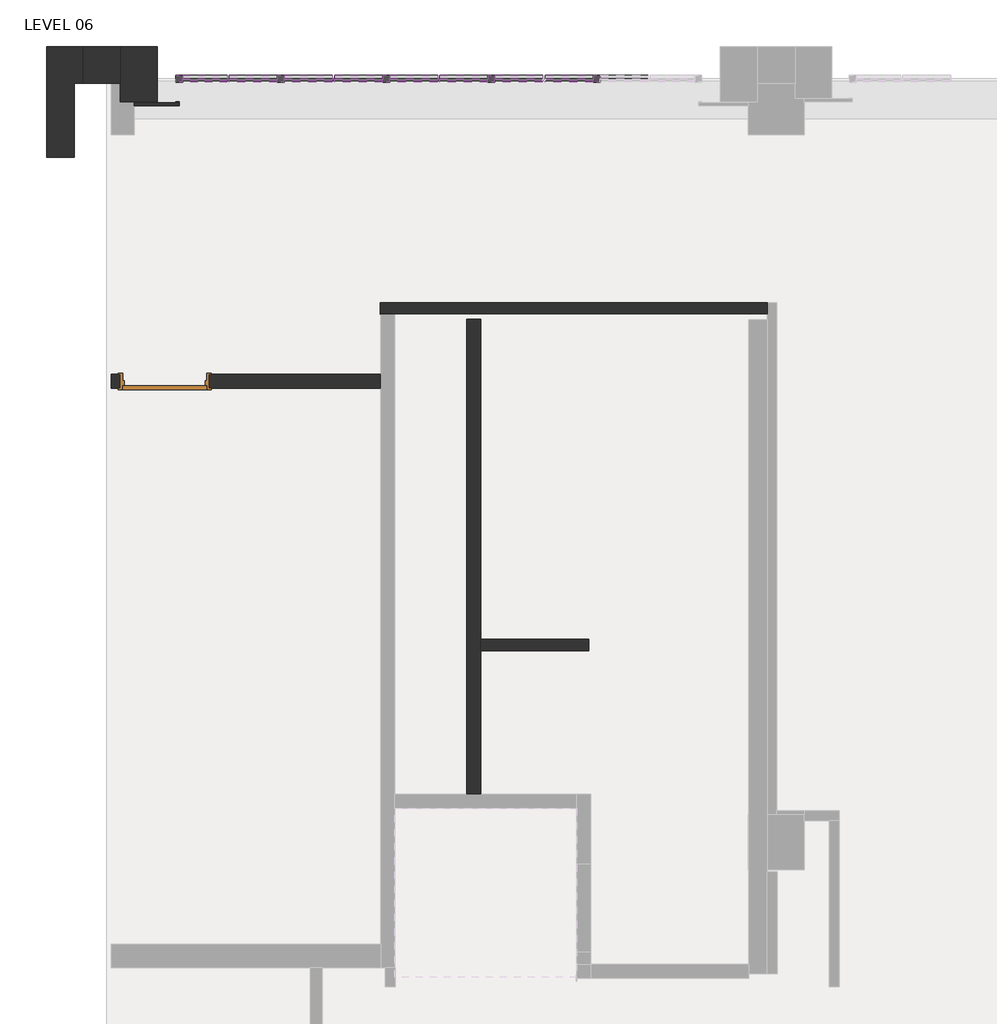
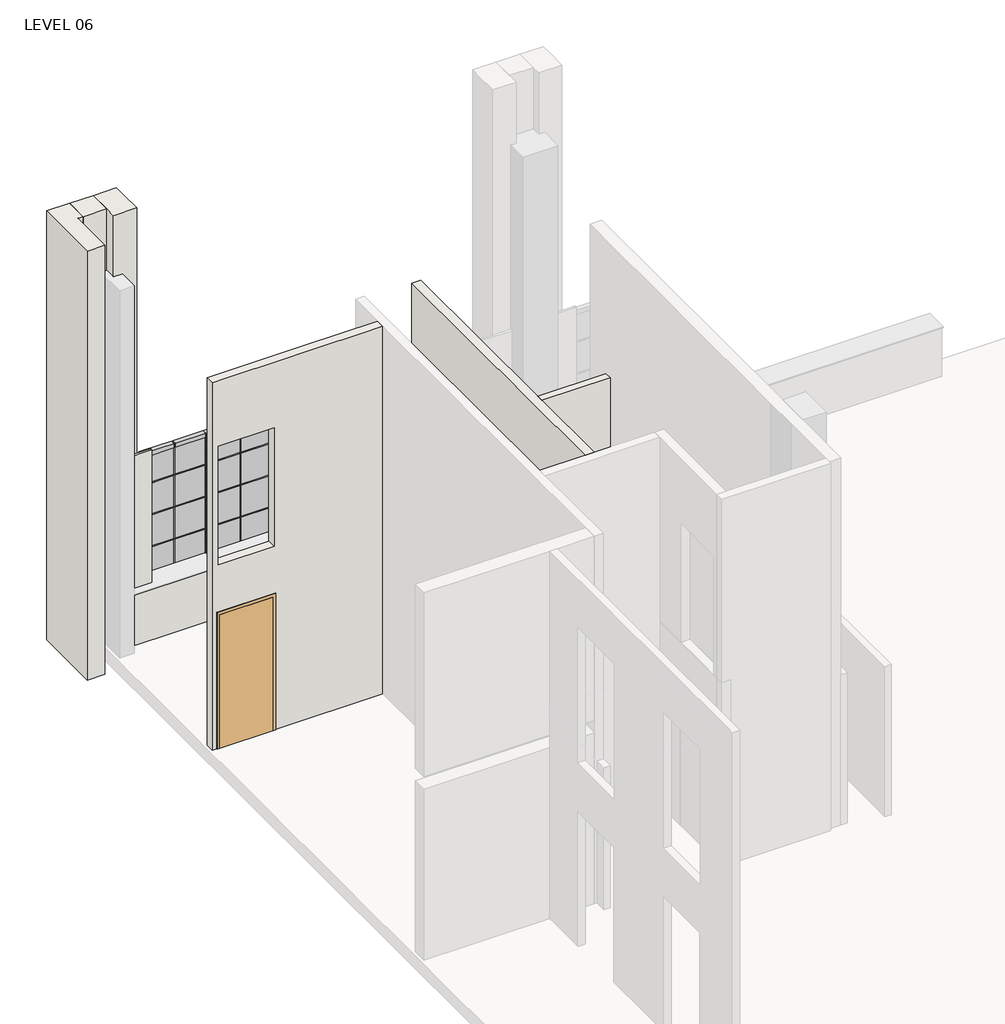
# One storey, part 2 of 16: 73 members, 32 plates, 11 walls, 1 door.
"""IFC4 building model written with IfcOpenShell, lengths in millimetres."""

from ifc_helpers import new_model, si_unit, frame, origin, place, context, project, spatial, polyline, outline, extrude, faceted_brep, transform, mapped, element, save
from components import door_048e38b4, member_d9fe2114, member_fd592df6, member_78bb2ef1, member_ba51e770, member_6e5aab5d, member_bacafba3, member_a6d649dc, system_panel_glazed_84a10c8e, system_panel_glazed_44697018, system_panel_glazed_99b9b709, system_panel_glazed_bf1454fd

model = new_model("IFC4")

# Units and contexts
model_context = context("Model", 3, world=origin())
ifc_project = project(units=[si_unit("LENGTHUNIT", "METRE", prefix="MILLI")], contexts=[model_context])

# Site, building, storey
site = spatial("IfcSite", under=ifc_project)
building = spatial("IfcBuilding", under=site)
storey = spatial("IfcBuildingStorey", under=building, Name="LEVEL 06", Elevation=17449.8)

# Door
placement = place(None, origin())
door_shape = door_048e38b4(model_context)
element("IfcDoor", 1, ObjectType="Single - Plain Panel - Hollow Metal Frame : 3'-0\" x 8'-0\" - Interior", at=placement, inside=storey, context=model_context, shape_type="MappedRepresentation", body=[
    mapped(door_shape, transform((-36807.3832298, -3705.225, 17449.8), x_axis=(1.0, 0.0, 0.0), y_axis=(0.0, 1.0, 0.0), z_axis=(0.0, 0.0, 1.0))),
])

# Members
member_shape = member_d9fe2114(model_context)
element("IfcMember", 2, ObjectType="Rectangular Mullion : 1\" x 1\" - Butt Joint", at=placement, inside=storey, context=model_context, shape_type="MappedRepresentation", body=[
    mapped(member_shape, transform((-35576.1910374, -412.75, 19989.8), x_axis=(0.0, 0.0, 1.0), y_axis=(0.0, -1.0, 0.0), z_axis=(1.0, 0.0, 0.0))),
])
element("IfcMember", 3, ObjectType="Rectangular Mullion : 1\" x 1\" - Butt Joint", at=placement, inside=storey, context=model_context, shape_type="MappedRepresentation", body=[
    mapped(member_shape, transform((-34428.1110374, -412.75, 19989.8), x_axis=(0.0, 0.0, 1.0), y_axis=(0.0, -1.0, 0.0), z_axis=(1.0, 0.0, 0.0))),
])
element("IfcMember", 4, ObjectType="Rectangular Mullion : 1\" x 1\" - Butt Joint", at=placement, inside=storey, context=model_context, shape_type="MappedRepresentation", body=[
    mapped(member_shape, transform((-33280.0310374, -412.75, 19989.8), x_axis=(0.0, 0.0, 1.0), y_axis=(0.0, -1.0, 0.0), z_axis=(1.0, 0.0, 0.0))),
])
element("IfcMember", 5, ObjectType="Rectangular Mullion : 1\" x 1\" - Butt Joint", at=placement, inside=storey, context=model_context, shape_type="MappedRepresentation", body=[
    mapped(member_shape, transform((-32131.9510374, -412.75, 19989.8), x_axis=(0.0, 0.0, 1.0), y_axis=(0.0, -1.0, 0.0), z_axis=(1.0, 0.0, 0.0))),
])
element("IfcMember", 6, ObjectType="Rectangular Mullion : 1\" x 1\" - Butt Joint", at=placement, inside=storey, context=model_context, shape_type="MappedRepresentation", body=[
    mapped(member_shape, transform((-34976.7510374, -412.75, 19989.8), x_axis=(0.0, 0.0, 1.0), y_axis=(0.0, -1.0, 0.0), z_axis=(1.0, 0.0, 0.0))),
])
element("IfcMember", 7, ObjectType="Rectangular Mullion : 1\" x 1\" - Butt Joint", at=placement, inside=storey, context=model_context, shape_type="MappedRepresentation", body=[
    mapped(member_shape, transform((-33828.6710374, -412.75, 19989.8), x_axis=(0.0, 0.0, 1.0), y_axis=(0.0, -1.0, 0.0), z_axis=(1.0, 0.0, 0.0))),
])
element("IfcMember", 8, ObjectType="Rectangular Mullion : 1\" x 1\" - Butt Joint", at=placement, inside=storey, context=model_context, shape_type="MappedRepresentation", body=[
    mapped(member_shape, transform((-32680.5910374, -412.75, 19989.8), x_axis=(0.0, 0.0, 1.0), y_axis=(0.0, -1.0, 0.0), z_axis=(1.0, 0.0, 0.0))),
])
element("IfcMember", 9, ObjectType="Rectangular Mullion : 1\" x 1\" - Butt Joint", at=placement, inside=storey, context=model_context, shape_type="MappedRepresentation", body=[
    mapped(member_shape, transform((-35576.1910374, -412.75, 19405.6), x_axis=(0.0, 0.0, 1.0), y_axis=(0.0, -1.0, 0.0), z_axis=(1.0, 0.0, 0.0))),
])
element("IfcMember", 10, ObjectType="Rectangular Mullion : 1\" x 1\" - Butt Joint", at=placement, inside=storey, context=model_context, shape_type="MappedRepresentation", body=[
    mapped(member_shape, transform((-34428.1110374, -412.75, 19405.6), x_axis=(0.0, 0.0, 1.0), y_axis=(0.0, -1.0, 0.0), z_axis=(1.0, 0.0, 0.0))),
])
element("IfcMember", 11, ObjectType="Rectangular Mullion : 1\" x 1\" - Butt Joint", at=placement, inside=storey, context=model_context, shape_type="MappedRepresentation", body=[
    mapped(member_shape, transform((-33280.0310374, -412.75, 19405.6), x_axis=(0.0, 0.0, 1.0), y_axis=(0.0, -1.0, 0.0), z_axis=(1.0, 0.0, 0.0))),
])
element("IfcMember", 12, ObjectType="Rectangular Mullion : 1\" x 1\" - Butt Joint", at=placement, inside=storey, context=model_context, shape_type="MappedRepresentation", body=[
    mapped(member_shape, transform((-32131.9510374, -412.75, 19405.6), x_axis=(0.0, 0.0, 1.0), y_axis=(0.0, -1.0, 0.0), z_axis=(1.0, 0.0, 0.0))),
])
element("IfcMember", 13, ObjectType="Rectangular Mullion : 1\" x 1\" - Butt Joint", at=placement, inside=storey, context=model_context, shape_type="MappedRepresentation", body=[
    mapped(member_shape, transform((-34976.7510374, -412.75, 19405.6), x_axis=(0.0, 0.0, 1.0), y_axis=(0.0, -1.0, 0.0), z_axis=(1.0, 0.0, 0.0))),
])
element("IfcMember", 14, ObjectType="Rectangular Mullion : 1\" x 1\" - Butt Joint", at=placement, inside=storey, context=model_context, shape_type="MappedRepresentation", body=[
    mapped(member_shape, transform((-33828.6710374, -412.75, 19405.6), x_axis=(0.0, 0.0, 1.0), y_axis=(0.0, -1.0, 0.0), z_axis=(1.0, 0.0, 0.0))),
])
element("IfcMember", 15, ObjectType="Rectangular Mullion : 1\" x 1\" - Butt Joint", at=placement, inside=storey, context=model_context, shape_type="MappedRepresentation", body=[
    mapped(member_shape, transform((-32680.5910374, -412.75, 19405.6), x_axis=(0.0, 0.0, 1.0), y_axis=(0.0, -1.0, 0.0), z_axis=(1.0, 0.0, 0.0))),
])
element("IfcMember", 16, ObjectType="Rectangular Mullion : 1\" x 1\" - Butt Joint", at=placement, inside=storey, context=model_context, shape_type="MappedRepresentation", body=[
    mapped(member_shape, transform((-35576.1910374, -412.75, 18821.4), x_axis=(0.0, 0.0, 1.0), y_axis=(0.0, -1.0, 0.0), z_axis=(1.0, 0.0, 0.0))),
])
element("IfcMember", 17, ObjectType="Rectangular Mullion : 1\" x 1\" - Butt Joint", at=placement, inside=storey, context=model_context, shape_type="MappedRepresentation", body=[
    mapped(member_shape, transform((-34428.1110374, -412.75, 18821.4), x_axis=(0.0, 0.0, 1.0), y_axis=(0.0, -1.0, 0.0), z_axis=(1.0, 0.0, 0.0))),
])
element("IfcMember", 18, ObjectType="Rectangular Mullion : 1\" x 1\" - Butt Joint", at=placement, inside=storey, context=model_context, shape_type="MappedRepresentation", body=[
    mapped(member_shape, transform((-33280.0310374, -412.75, 18821.4), x_axis=(0.0, 0.0, 1.0), y_axis=(0.0, -1.0, 0.0), z_axis=(1.0, 0.0, 0.0))),
])
element("IfcMember", 19, ObjectType="Rectangular Mullion : 1\" x 1\" - Butt Joint", at=placement, inside=storey, context=model_context, shape_type="MappedRepresentation", body=[
    mapped(member_shape, transform((-32131.9510374, -412.75, 18821.4), x_axis=(0.0, 0.0, 1.0), y_axis=(0.0, -1.0, 0.0), z_axis=(1.0, 0.0, 0.0))),
])
element("IfcMember", 20, ObjectType="Rectangular Mullion : 1\" x 1\" - Butt Joint", at=placement, inside=storey, context=model_context, shape_type="MappedRepresentation", body=[
    mapped(member_shape, transform((-34976.7510374, -412.75, 18821.4), x_axis=(0.0, 0.0, 1.0), y_axis=(0.0, -1.0, 0.0), z_axis=(1.0, 0.0, 0.0))),
])
element("IfcMember", 21, ObjectType="Rectangular Mullion : 1\" x 1\" - Butt Joint", at=placement, inside=storey, context=model_context, shape_type="MappedRepresentation", body=[
    mapped(member_shape, transform((-33828.6710374, -412.75, 18821.4), x_axis=(0.0, 0.0, 1.0), y_axis=(0.0, -1.0, 0.0), z_axis=(1.0, 0.0, 0.0))),
])
element("IfcMember", 22, ObjectType="Rectangular Mullion : 1\" x 1\" - Butt Joint", at=placement, inside=storey, context=model_context, shape_type="MappedRepresentation", body=[
    mapped(member_shape, transform((-32680.5910374, -412.75, 18821.4), x_axis=(0.0, 0.0, 1.0), y_axis=(0.0, -1.0, 0.0), z_axis=(1.0, 0.0, 0.0))),
])
member_2_shape = member_fd592df6(model_context)
element("IfcMember", 23, ObjectType="Rectangular Mullion : 1\" x 1\" - Butt Joint", at=placement, inside=storey, context=model_context, shape_type="MappedRepresentation", body=[
    mapped(member_2_shape, transform((-36124.8310374, -412.75, 19989.8), x_axis=(0.0, 0.0, 1.0), y_axis=(0.0, -1.0, 0.0), z_axis=(1.0, 0.0, 0.0))),
])
element("IfcMember", 24, ObjectType="Rectangular Mullion : 1\" x 1\" - Butt Joint", at=placement, inside=storey, context=model_context, shape_type="MappedRepresentation", body=[
    mapped(member_2_shape, transform((-36124.8310374, -412.75, 19405.6), x_axis=(0.0, 0.0, 1.0), y_axis=(0.0, -1.0, 0.0), z_axis=(1.0, 0.0, 0.0))),
])
element("IfcMember", 25, ObjectType="Rectangular Mullion : 1\" x 1\" - Butt Joint", at=placement, inside=storey, context=model_context, shape_type="MappedRepresentation", body=[
    mapped(member_2_shape, transform((-36124.8310374, -412.75, 18821.4), x_axis=(0.0, 0.0, 1.0), y_axis=(0.0, -1.0, 0.0), z_axis=(1.0, 0.0, 0.0))),
])
member_3_shape = member_78bb2ef1(model_context)
element("IfcMember", 26, ObjectType="Rectangular Mullion : 1\" x 1\" - Butt Joint", at=placement, inside=storey, context=model_context, shape_type="MappedRepresentation", body=[
    mapped(member_3_shape, transform((-33815.9710374, -412.75, 19989.8), x_axis=(1.0, 0.0, 0.0), y_axis=(0.0, -1.0, 0.0), z_axis=(0.0, 0.0, -1.0))),
])
element("IfcMember", 27, ObjectType="Rectangular Mullion : 1\" x 1\" - Butt Joint", at=placement, inside=storey, context=model_context, shape_type="MappedRepresentation", body=[
    mapped(member_3_shape, transform((-34964.0510374, -412.75, 19989.8), x_axis=(1.0, 0.0, 0.0), y_axis=(0.0, -1.0, 0.0), z_axis=(0.0, 0.0, -1.0))),
])
element("IfcMember", 28, ObjectType="Rectangular Mullion : 1\" x 1\" - Butt Joint", at=placement, inside=storey, context=model_context, shape_type="MappedRepresentation", body=[
    mapped(member_3_shape, transform((-36112.1310374, -412.75, 19989.8), x_axis=(1.0, 0.0, 0.0), y_axis=(0.0, -1.0, 0.0), z_axis=(0.0, 0.0, -1.0))),
])
element("IfcMember", 29, ObjectType="Rectangular Mullion : 1\" x 1\" - Butt Joint", at=placement, inside=storey, context=model_context, shape_type="MappedRepresentation", body=[
    mapped(member_3_shape, transform((-33815.9710374, -412.75, 18821.4), x_axis=(1.0, 0.0, 0.0), y_axis=(0.0, -1.0, 0.0), z_axis=(0.0, 0.0, -1.0))),
])
element("IfcMember", 30, ObjectType="Rectangular Mullion : 1\" x 1\" - Butt Joint", at=placement, inside=storey, context=model_context, shape_type="MappedRepresentation", body=[
    mapped(member_3_shape, transform((-33815.9710374, -412.75, 19405.6), x_axis=(1.0, 0.0, 0.0), y_axis=(0.0, -1.0, 0.0), z_axis=(0.0, 0.0, -1.0))),
])
element("IfcMember", 31, ObjectType="Rectangular Mullion : 1\" x 1\" - Butt Joint", at=placement, inside=storey, context=model_context, shape_type="MappedRepresentation", body=[
    mapped(member_3_shape, transform((-34964.0510374, -412.75, 18821.4), x_axis=(1.0, 0.0, 0.0), y_axis=(0.0, -1.0, 0.0), z_axis=(0.0, 0.0, -1.0))),
])
element("IfcMember", 32, ObjectType="Rectangular Mullion : 1\" x 1\" - Butt Joint", at=placement, inside=storey, context=model_context, shape_type="MappedRepresentation", body=[
    mapped(member_3_shape, transform((-34964.0510374, -412.75, 19405.6), x_axis=(1.0, 0.0, 0.0), y_axis=(0.0, -1.0, 0.0), z_axis=(0.0, 0.0, -1.0))),
])
element("IfcMember", 33, ObjectType="Rectangular Mullion : 1\" x 1\" - Butt Joint", at=placement, inside=storey, context=model_context, shape_type="MappedRepresentation", body=[
    mapped(member_3_shape, transform((-36112.1310374, -412.75, 18821.4), x_axis=(1.0, 0.0, 0.0), y_axis=(0.0, -1.0, 0.0), z_axis=(0.0, 0.0, -1.0))),
])
element("IfcMember", 34, ObjectType="Rectangular Mullion : 1\" x 1\" - Butt Joint", at=placement, inside=storey, context=model_context, shape_type="MappedRepresentation", body=[
    mapped(member_3_shape, transform((-36112.1310374, -412.75, 19405.6), x_axis=(1.0, 0.0, 0.0), y_axis=(0.0, -1.0, 0.0), z_axis=(0.0, 0.0, -1.0))),
])
element("IfcMember", 35, ObjectType="Rectangular Mullion : 1\" x 1\" - Butt Joint", at=placement, inside=storey, context=model_context, shape_type="MappedRepresentation", body=[
    mapped(member_3_shape, transform((-33815.9710374, -412.75, 18237.2), x_axis=(1.0, 0.0, 0.0), y_axis=(0.0, -1.0, 0.0), z_axis=(0.0, 0.0, -1.0))),
])
element("IfcMember", 36, ObjectType="Rectangular Mullion : 1\" x 1\" - Butt Joint", at=placement, inside=storey, context=model_context, shape_type="MappedRepresentation", body=[
    mapped(member_3_shape, transform((-34964.0510374, -412.75, 18237.2), x_axis=(1.0, 0.0, 0.0), y_axis=(0.0, -1.0, 0.0), z_axis=(0.0, 0.0, -1.0))),
])
element("IfcMember", 37, ObjectType="Rectangular Mullion : 1\" x 1\" - Butt Joint", at=placement, inside=storey, context=model_context, shape_type="MappedRepresentation", body=[
    mapped(member_3_shape, transform((-36112.1310374, -412.75, 18237.2), x_axis=(1.0, 0.0, 0.0), y_axis=(0.0, -1.0, 0.0), z_axis=(0.0, 0.0, -1.0))),
])
member_4_shape = member_ba51e770(model_context)
element("IfcMember", 38, ObjectType="Rectangular Mullion : 3\" x 3\" Window Jamb", at=placement, inside=storey, context=model_context, shape_type="MappedRepresentation", body=[
    mapped(member_4_shape, transform((-36124.8310374, -412.75, 20574.0), x_axis=(0.0, 0.0, 1.0), y_axis=(0.0, -1.0, 0.0), z_axis=(1.0, 0.0, 0.0))),
])
member_5_shape = member_6e5aab5d(model_context)
element("IfcMember", 39, ObjectType="Rectangular Mullion : 3\" x 3\" Window Jamb", at=placement, inside=storey, context=model_context, shape_type="MappedRepresentation", body=[
    mapped(member_5_shape, transform((-34976.7510374, -412.75, 20574.0), x_axis=(0.0, 0.0, 1.0), y_axis=(0.0, -1.0, 0.0), z_axis=(1.0, 0.0, 0.0))),
])
element("IfcMember", 40, ObjectType="Rectangular Mullion : 3\" x 3\" Window Jamb", at=placement, inside=storey, context=model_context, shape_type="MappedRepresentation", body=[
    mapped(member_5_shape, transform((-33828.6710374, -412.75, 20574.0), x_axis=(0.0, 0.0, 1.0), y_axis=(0.0, -1.0, 0.0), z_axis=(1.0, 0.0, 0.0))),
])
element("IfcMember", 41, ObjectType="Rectangular Mullion : 3\" x 3\" Window Jamb", at=placement, inside=storey, context=model_context, shape_type="MappedRepresentation", body=[
    mapped(member_5_shape, transform((-32680.5910374, -412.75, 20574.0), x_axis=(0.0, 0.0, 1.0), y_axis=(0.0, -1.0, 0.0), z_axis=(1.0, 0.0, 0.0))),
])
element("IfcMember", 42, ObjectType="Rectangular Mullion : 3\" x 3\" Window Jamb", at=placement, inside=storey, context=model_context, shape_type="MappedRepresentation", body=[
    mapped(member_5_shape, transform((-35576.1910374, -412.75, 20574.0), x_axis=(0.0, 0.0, 1.0), y_axis=(0.0, -1.0, 0.0), z_axis=(1.0, 0.0, 0.0))),
])
element("IfcMember", 43, ObjectType="Rectangular Mullion : 3\" x 3\" Window Jamb", at=placement, inside=storey, context=model_context, shape_type="MappedRepresentation", body=[
    mapped(member_5_shape, transform((-34428.1110374, -412.75, 20574.0), x_axis=(0.0, 0.0, 1.0), y_axis=(0.0, -1.0, 0.0), z_axis=(1.0, 0.0, 0.0))),
])
element("IfcMember", 44, ObjectType="Rectangular Mullion : 3\" x 3\" Window Jamb", at=placement, inside=storey, context=model_context, shape_type="MappedRepresentation", body=[
    mapped(member_5_shape, transform((-33280.0310374, -412.75, 20574.0), x_axis=(0.0, 0.0, 1.0), y_axis=(0.0, -1.0, 0.0), z_axis=(1.0, 0.0, 0.0))),
])
element("IfcMember", 45, ObjectType="Rectangular Mullion : 3\" x 3\" Window Jamb", at=placement, inside=storey, context=model_context, shape_type="MappedRepresentation", body=[
    mapped(member_5_shape, transform((-32131.9510374, -412.75, 20574.0), x_axis=(0.0, 0.0, 1.0), y_axis=(0.0, -1.0, 0.0), z_axis=(1.0, 0.0, 0.0))),
])
element("IfcMember", 46, ObjectType="Rectangular Mullion : 3\" x 3\" Window Jamb", at=placement, inside=storey, context=model_context, shape_type="MappedRepresentation", body=[
    mapped(member_5_shape, transform((-36099.4310374, -412.75, 18237.2), x_axis=(0.0, 0.0, -1.0), y_axis=(0.0, -1.0, 0.0), z_axis=(-1.0, 0.0, 0.0))),
])
element("IfcMember", 47, ObjectType="Rectangular Mullion : 3\" x 3\" Window Jamb", at=placement, inside=storey, context=model_context, shape_type="MappedRepresentation", body=[
    mapped(member_5_shape, transform((-34951.3510374, -412.75, 18237.2), x_axis=(0.0, 0.0, -1.0), y_axis=(0.0, -1.0, 0.0), z_axis=(-1.0, 0.0, 0.0))),
])
element("IfcMember", 48, ObjectType="Rectangular Mullion : 3\" x 3\" Window Jamb", at=placement, inside=storey, context=model_context, shape_type="MappedRepresentation", body=[
    mapped(member_5_shape, transform((-33803.2710374, -412.75, 18237.2), x_axis=(0.0, 0.0, -1.0), y_axis=(0.0, -1.0, 0.0), z_axis=(-1.0, 0.0, 0.0))),
])
element("IfcMember", 49, ObjectType="Rectangular Mullion : 3\" x 3\" Window Jamb", at=placement, inside=storey, context=model_context, shape_type="MappedRepresentation", body=[
    mapped(member_5_shape, transform((-32655.1910374, -412.75, 18237.2), x_axis=(0.0, 0.0, -1.0), y_axis=(0.0, -1.0, 0.0), z_axis=(-1.0, 0.0, 0.0))),
])
element("IfcMember", 50, ObjectType="Rectangular Mullion : 3\" x 3\" Window Jamb", at=placement, inside=storey, context=model_context, shape_type="MappedRepresentation", body=[
    mapped(member_5_shape, transform((-35499.9910374, -412.75, 18237.2), x_axis=(0.0, 0.0, -1.0), y_axis=(0.0, -1.0, 0.0), z_axis=(-1.0, 0.0, 0.0))),
])
element("IfcMember", 51, ObjectType="Rectangular Mullion : 3\" x 3\" Window Jamb", at=placement, inside=storey, context=model_context, shape_type="MappedRepresentation", body=[
    mapped(member_5_shape, transform((-34351.9110374, -412.75, 18237.2), x_axis=(0.0, 0.0, -1.0), y_axis=(0.0, -1.0, 0.0), z_axis=(-1.0, 0.0, 0.0))),
])
element("IfcMember", 52, ObjectType="Rectangular Mullion : 3\" x 3\" Window Jamb", at=placement, inside=storey, context=model_context, shape_type="MappedRepresentation", body=[
    mapped(member_5_shape, transform((-33203.8310374, -412.75, 18237.2), x_axis=(0.0, 0.0, -1.0), y_axis=(0.0, -1.0, 0.0), z_axis=(-1.0, 0.0, 0.0))),
])
element("IfcMember", 53, ObjectType="Rectangular Mullion : 3\" x 3\" Window Jamb", at=placement, inside=storey, context=model_context, shape_type="MappedRepresentation", body=[
    mapped(member_5_shape, transform((-32055.7510374, -412.75, 18237.2), x_axis=(0.0, 0.0, -1.0), y_axis=(0.0, -1.0, 0.0), z_axis=(-1.0, 0.0, 0.0))),
])
element("IfcMember", 54, ObjectType="Rectangular Mullion : 3\" x 3\" Window Jamb", at=placement, inside=storey, context=model_context, shape_type="MappedRepresentation", body=[
    mapped(member_4_shape, transform((-36609.9710374, -412.75, 18237.2), x_axis=(0.0, 0.0, -1.0), y_axis=(0.0, -1.0, 0.0), z_axis=(-1.0, 0.0, 0.0))),
])
member_6_shape = member_bacafba3(model_context)
element("IfcMember", 55, ObjectType="Rectangular Mullion : 3\" x 3\" Window Jamb", at=placement, inside=storey, context=model_context, shape_type="MappedRepresentation", body=[
    mapped(member_6_shape, transform((-32093.8510374, -412.75, 19989.8), x_axis=(1.0, 0.0, 0.0), y_axis=(0.0, -1.0, 0.0), z_axis=(0.0, 0.0, -1.0))),
])
element("IfcMember", 56, ObjectType="Rectangular Mullion : 3\" x 3\" Window Jamb", at=placement, inside=storey, context=model_context, shape_type="MappedRepresentation", body=[
    mapped(member_6_shape, transform((-33241.9310374, -412.75, 19989.8), x_axis=(1.0, 0.0, 0.0), y_axis=(0.0, -1.0, 0.0), z_axis=(0.0, 0.0, -1.0))),
])
element("IfcMember", 57, ObjectType="Rectangular Mullion : 3\" x 3\" Window Jamb", at=placement, inside=storey, context=model_context, shape_type="MappedRepresentation", body=[
    mapped(member_6_shape, transform((-34390.0110374, -412.75, 19989.8), x_axis=(1.0, 0.0, 0.0), y_axis=(0.0, -1.0, 0.0), z_axis=(0.0, 0.0, -1.0))),
])
element("IfcMember", 58, ObjectType="Rectangular Mullion : 3\" x 3\" Window Jamb", at=placement, inside=storey, context=model_context, shape_type="MappedRepresentation", body=[
    mapped(member_6_shape, transform((-35538.0910374, -412.75, 19989.8), x_axis=(1.0, 0.0, 0.0), y_axis=(0.0, -1.0, 0.0), z_axis=(0.0, 0.0, -1.0))),
])
element("IfcMember", 59, ObjectType="Rectangular Mullion : 3\" x 3\" Window Jamb", at=placement, inside=storey, context=model_context, shape_type="MappedRepresentation", body=[
    mapped(member_6_shape, transform((-32093.8510374, -412.75, 18821.4), x_axis=(1.0, 0.0, 0.0), y_axis=(0.0, -1.0, 0.0), z_axis=(0.0, 0.0, -1.0))),
])
element("IfcMember", 60, ObjectType="Rectangular Mullion : 3\" x 3\" Window Jamb", at=placement, inside=storey, context=model_context, shape_type="MappedRepresentation", body=[
    mapped(member_6_shape, transform((-32093.8510374, -412.75, 19405.6), x_axis=(1.0, 0.0, 0.0), y_axis=(0.0, -1.0, 0.0), z_axis=(0.0, 0.0, -1.0))),
])
element("IfcMember", 61, ObjectType="Rectangular Mullion : 3\" x 3\" Window Jamb", at=placement, inside=storey, context=model_context, shape_type="MappedRepresentation", body=[
    mapped(member_6_shape, transform((-33241.9310374, -412.75, 18821.4), x_axis=(1.0, 0.0, 0.0), y_axis=(0.0, -1.0, 0.0), z_axis=(0.0, 0.0, -1.0))),
])
element("IfcMember", 62, ObjectType="Rectangular Mullion : 3\" x 3\" Window Jamb", at=placement, inside=storey, context=model_context, shape_type="MappedRepresentation", body=[
    mapped(member_6_shape, transform((-33241.9310374, -412.75, 19405.6), x_axis=(1.0, 0.0, 0.0), y_axis=(0.0, -1.0, 0.0), z_axis=(0.0, 0.0, -1.0))),
])
element("IfcMember", 63, ObjectType="Rectangular Mullion : 3\" x 3\" Window Jamb", at=placement, inside=storey, context=model_context, shape_type="MappedRepresentation", body=[
    mapped(member_6_shape, transform((-34390.0110374, -412.75, 18821.4), x_axis=(1.0, 0.0, 0.0), y_axis=(0.0, -1.0, 0.0), z_axis=(0.0, 0.0, -1.0))),
])
element("IfcMember", 64, ObjectType="Rectangular Mullion : 3\" x 3\" Window Jamb", at=placement, inside=storey, context=model_context, shape_type="MappedRepresentation", body=[
    mapped(member_6_shape, transform((-34390.0110374, -412.75, 19405.6), x_axis=(1.0, 0.0, 0.0), y_axis=(0.0, -1.0, 0.0), z_axis=(0.0, 0.0, -1.0))),
])
element("IfcMember", 65, ObjectType="Rectangular Mullion : 3\" x 3\" Window Jamb", at=placement, inside=storey, context=model_context, shape_type="MappedRepresentation", body=[
    mapped(member_6_shape, transform((-35538.0910374, -412.75, 18821.4), x_axis=(1.0, 0.0, 0.0), y_axis=(0.0, -1.0, 0.0), z_axis=(0.0, 0.0, -1.0))),
])
element("IfcMember", 66, ObjectType="Rectangular Mullion : 3\" x 3\" Window Jamb", at=placement, inside=storey, context=model_context, shape_type="MappedRepresentation", body=[
    mapped(member_6_shape, transform((-35538.0910374, -412.75, 19405.6), x_axis=(1.0, 0.0, 0.0), y_axis=(0.0, -1.0, 0.0), z_axis=(0.0, 0.0, -1.0))),
])
element("IfcMember", 67, ObjectType="Rectangular Mullion : 3\" x 3\" Window Jamb", at=placement, inside=storey, context=model_context, shape_type="MappedRepresentation", body=[
    mapped(member_6_shape, transform((-32093.8510374, -412.75, 18237.2), x_axis=(1.0, 0.0, 0.0), y_axis=(0.0, -1.0, 0.0), z_axis=(0.0, 0.0, -1.0))),
])
element("IfcMember", 68, ObjectType="Rectangular Mullion : 3\" x 3\" Window Jamb", at=placement, inside=storey, context=model_context, shape_type="MappedRepresentation", body=[
    mapped(member_6_shape, transform((-33241.9310374, -412.75, 18237.2), x_axis=(1.0, 0.0, 0.0), y_axis=(0.0, -1.0, 0.0), z_axis=(0.0, 0.0, -1.0))),
])
element("IfcMember", 69, ObjectType="Rectangular Mullion : 3\" x 3\" Window Jamb", at=placement, inside=storey, context=model_context, shape_type="MappedRepresentation", body=[
    mapped(member_6_shape, transform((-34390.0110374, -412.75, 18237.2), x_axis=(1.0, 0.0, 0.0), y_axis=(0.0, -1.0, 0.0), z_axis=(0.0, 0.0, -1.0))),
])
element("IfcMember", 70, ObjectType="Rectangular Mullion : 3\" x 3\" Window Jamb", at=placement, inside=storey, context=model_context, shape_type="MappedRepresentation", body=[
    mapped(member_6_shape, transform((-35538.0910374, -412.75, 18237.2), x_axis=(1.0, 0.0, 0.0), y_axis=(0.0, -1.0, 0.0), z_axis=(0.0, 0.0, -1.0))),
])
member_7_shape = member_a6d649dc(model_context)
element("IfcMember", 71, ObjectType="Rectangular Mullion : 3\" x 3\" Window Jamb", at=placement, inside=storey, context=model_context, shape_type="MappedRepresentation", body=[
    mapped(member_7_shape, transform((-36686.1710374, -412.75, 19989.8), x_axis=(-1.0, 0.0, 0.0), y_axis=(0.0, -1.0, 0.0), z_axis=(0.0, 0.0, 1.0))),
])
element("IfcMember", 72, ObjectType="Rectangular Mullion : 3\" x 3\" Window Jamb", at=placement, inside=storey, context=model_context, shape_type="MappedRepresentation", body=[
    mapped(member_7_shape, transform((-36686.1710374, -412.75, 19405.6), x_axis=(-1.0, 0.0, 0.0), y_axis=(0.0, -1.0, 0.0), z_axis=(0.0, 0.0, 1.0))),
])
element("IfcMember", 73, ObjectType="Rectangular Mullion : 3\" x 3\" Window Jamb", at=placement, inside=storey, context=model_context, shape_type="MappedRepresentation", body=[
    mapped(member_7_shape, transform((-36686.1710374, -412.75, 18821.4), x_axis=(-1.0, 0.0, 0.0), y_axis=(0.0, -1.0, 0.0), z_axis=(0.0, 0.0, 1.0))),
])
element("IfcMember", 74, ObjectType="Rectangular Mullion : 3\" x 3\" Window Jamb", at=placement, inside=storey, context=model_context, shape_type="MappedRepresentation", body=[
    mapped(member_7_shape, transform((-36686.1710374, -412.75, 20574.0), x_axis=(-1.0, 0.0, 0.0), y_axis=(0.0, -1.0, 0.0), z_axis=(0.0, 0.0, 1.0))),
])

# Plates
system_panel_glazed_shape = system_panel_glazed_84a10c8e(model_context)
element("IfcPlate", 75, ObjectType="System Panel : Glazed", at=placement, inside=storey, context=model_context, shape_type="MappedRepresentation", body=[
    mapped(system_panel_glazed_shape, transform((-36367.4010374, -412.75, 18313.4), x_axis=(1.0, 0.0, 0.0), y_axis=(0.0, 1.0, 0.0), z_axis=(0.0, 0.0, 1.0))),
])
element("IfcPlate", 76, ObjectType="System Panel : Glazed", at=placement, inside=storey, context=model_context, shape_type="MappedRepresentation", body=[
    mapped(system_panel_glazed_shape, transform((-36367.4010374, -412.75, 20002.5), x_axis=(1.0, 0.0, 0.0), y_axis=(0.0, 1.0, 0.0), z_axis=(0.0, 0.0, 1.0))),
])
system_panel_glazed_2_shape = system_panel_glazed_44697018(model_context)
element("IfcPlate", 77, ObjectType="System Panel : Glazed", at=placement, inside=storey, context=model_context, shape_type="MappedRepresentation", body=[
    mapped(system_panel_glazed_2_shape, transform((-32942.2110374, -412.75, 18313.4), x_axis=(1.0, 0.0, 0.0), y_axis=(0.0, 1.0, 0.0), z_axis=(0.0, 0.0, 1.0))),
])
element("IfcPlate", 78, ObjectType="System Panel : Glazed", at=placement, inside=storey, context=model_context, shape_type="MappedRepresentation", body=[
    mapped(system_panel_glazed_2_shape, transform((-34090.2910374, -412.75, 18313.4), x_axis=(1.0, 0.0, 0.0), y_axis=(0.0, 1.0, 0.0), z_axis=(0.0, 0.0, 1.0))),
])
element("IfcPlate", 79, ObjectType="System Panel : Glazed", at=placement, inside=storey, context=model_context, shape_type="MappedRepresentation", body=[
    mapped(system_panel_glazed_2_shape, transform((-35238.3710374, -412.75, 18313.4), x_axis=(1.0, 0.0, 0.0), y_axis=(0.0, 1.0, 0.0), z_axis=(0.0, 0.0, 1.0))),
])
element("IfcPlate", 80, ObjectType="System Panel : Glazed", at=placement, inside=storey, context=model_context, shape_type="MappedRepresentation", body=[
    mapped(system_panel_glazed_2_shape, transform((-35238.3710374, -412.75, 20002.5), x_axis=(1.0, 0.0, 0.0), y_axis=(0.0, 1.0, 0.0), z_axis=(0.0, 0.0, 1.0))),
])
element("IfcPlate", 81, ObjectType="System Panel : Glazed", at=placement, inside=storey, context=model_context, shape_type="MappedRepresentation", body=[
    mapped(system_panel_glazed_2_shape, transform((-34090.2910374, -412.75, 20002.5), x_axis=(1.0, 0.0, 0.0), y_axis=(0.0, 1.0, 0.0), z_axis=(0.0, 0.0, 1.0))),
])
element("IfcPlate", 82, ObjectType="System Panel : Glazed", at=placement, inside=storey, context=model_context, shape_type="MappedRepresentation", body=[
    mapped(system_panel_glazed_2_shape, transform((-32942.2110374, -412.75, 20002.5), x_axis=(1.0, 0.0, 0.0), y_axis=(0.0, 1.0, 0.0), z_axis=(0.0, 0.0, 1.0))),
])
element("IfcPlate", 83, ObjectType="System Panel : Glazed", at=placement, inside=storey, context=model_context, shape_type="MappedRepresentation", body=[
    mapped(system_panel_glazed_2_shape, transform((-32393.5710374, -412.75, 18313.4), x_axis=(1.0, 0.0, 0.0), y_axis=(0.0, 1.0, 0.0), z_axis=(0.0, 0.0, 1.0))),
])
element("IfcPlate", 84, ObjectType="System Panel : Glazed", at=placement, inside=storey, context=model_context, shape_type="MappedRepresentation", body=[
    mapped(system_panel_glazed_2_shape, transform((-32393.5710374, -412.75, 20002.5), x_axis=(1.0, 0.0, 0.0), y_axis=(0.0, 1.0, 0.0), z_axis=(0.0, 0.0, 1.0))),
])
element("IfcPlate", 85, ObjectType="System Panel : Glazed", at=placement, inside=storey, context=model_context, shape_type="MappedRepresentation", body=[
    mapped(system_panel_glazed_2_shape, transform((-33541.6510374, -412.75, 18313.4), x_axis=(1.0, 0.0, 0.0), y_axis=(0.0, 1.0, 0.0), z_axis=(0.0, 0.0, 1.0))),
])
element("IfcPlate", 86, ObjectType="System Panel : Glazed", at=placement, inside=storey, context=model_context, shape_type="MappedRepresentation", body=[
    mapped(system_panel_glazed_2_shape, transform((-33541.6510374, -412.75, 20002.5), x_axis=(1.0, 0.0, 0.0), y_axis=(0.0, 1.0, 0.0), z_axis=(0.0, 0.0, 1.0))),
])
element("IfcPlate", 87, ObjectType="System Panel : Glazed", at=placement, inside=storey, context=model_context, shape_type="MappedRepresentation", body=[
    mapped(system_panel_glazed_2_shape, transform((-34689.7310374, -412.75, 18313.4), x_axis=(1.0, 0.0, 0.0), y_axis=(0.0, 1.0, 0.0), z_axis=(0.0, 0.0, 1.0))),
])
element("IfcPlate", 88, ObjectType="System Panel : Glazed", at=placement, inside=storey, context=model_context, shape_type="MappedRepresentation", body=[
    mapped(system_panel_glazed_2_shape, transform((-34689.7310374, -412.75, 20002.5), x_axis=(1.0, 0.0, 0.0), y_axis=(0.0, 1.0, 0.0), z_axis=(0.0, 0.0, 1.0))),
])
element("IfcPlate", 89, ObjectType="System Panel : Glazed", at=placement, inside=storey, context=model_context, shape_type="MappedRepresentation", body=[
    mapped(system_panel_glazed_2_shape, transform((-35837.8110374, -412.75, 18313.4), x_axis=(1.0, 0.0, 0.0), y_axis=(0.0, 1.0, 0.0), z_axis=(0.0, 0.0, 1.0))),
])
element("IfcPlate", 90, ObjectType="System Panel : Glazed", at=placement, inside=storey, context=model_context, shape_type="MappedRepresentation", body=[
    mapped(system_panel_glazed_2_shape, transform((-35837.8110374, -412.75, 20002.5), x_axis=(1.0, 0.0, 0.0), y_axis=(0.0, 1.0, 0.0), z_axis=(0.0, 0.0, 1.0))),
])
system_panel_glazed_3_shape = system_panel_glazed_99b9b709(model_context)
element("IfcPlate", 91, ObjectType="System Panel : Glazed", at=placement, inside=storey, context=model_context, shape_type="MappedRepresentation", body=[
    mapped(system_panel_glazed_3_shape, transform((-36367.4010374, -412.75, 19418.3), x_axis=(1.0, 0.0, 0.0), y_axis=(0.0, 1.0, 0.0), z_axis=(0.0, 0.0, 1.0))),
])
element("IfcPlate", 92, ObjectType="System Panel : Glazed", at=placement, inside=storey, context=model_context, shape_type="MappedRepresentation", body=[
    mapped(system_panel_glazed_3_shape, transform((-36367.4010374, -412.75, 18834.1), x_axis=(1.0, 0.0, 0.0), y_axis=(0.0, 1.0, 0.0), z_axis=(0.0, 0.0, 1.0))),
])
system_panel_glazed_4_shape = system_panel_glazed_bf1454fd(model_context)
element("IfcPlate", 93, ObjectType="System Panel : Glazed", at=placement, inside=storey, context=model_context, shape_type="MappedRepresentation", body=[
    mapped(system_panel_glazed_4_shape, transform((-35238.3710374, -412.75, 19418.3), x_axis=(1.0, 0.0, 0.0), y_axis=(0.0, 1.0, 0.0), z_axis=(0.0, 0.0, 1.0))),
])
element("IfcPlate", 94, ObjectType="System Panel : Glazed", at=placement, inside=storey, context=model_context, shape_type="MappedRepresentation", body=[
    mapped(system_panel_glazed_4_shape, transform((-34090.2910374, -412.75, 19418.3), x_axis=(1.0, 0.0, 0.0), y_axis=(0.0, 1.0, 0.0), z_axis=(0.0, 0.0, 1.0))),
])
element("IfcPlate", 95, ObjectType="System Panel : Glazed", at=placement, inside=storey, context=model_context, shape_type="MappedRepresentation", body=[
    mapped(system_panel_glazed_4_shape, transform((-32942.2110374, -412.75, 19418.3), x_axis=(1.0, 0.0, 0.0), y_axis=(0.0, 1.0, 0.0), z_axis=(0.0, 0.0, 1.0))),
])
element("IfcPlate", 96, ObjectType="System Panel : Glazed", at=placement, inside=storey, context=model_context, shape_type="MappedRepresentation", body=[
    mapped(system_panel_glazed_4_shape, transform((-35238.3710374, -412.75, 18834.1), x_axis=(1.0, 0.0, 0.0), y_axis=(0.0, 1.0, 0.0), z_axis=(0.0, 0.0, 1.0))),
])
element("IfcPlate", 97, ObjectType="System Panel : Glazed", at=placement, inside=storey, context=model_context, shape_type="MappedRepresentation", body=[
    mapped(system_panel_glazed_4_shape, transform((-34090.2910374, -412.75, 18834.1), x_axis=(1.0, 0.0, 0.0), y_axis=(0.0, 1.0, 0.0), z_axis=(0.0, 0.0, 1.0))),
])
element("IfcPlate", 98, ObjectType="System Panel : Glazed", at=placement, inside=storey, context=model_context, shape_type="MappedRepresentation", body=[
    mapped(system_panel_glazed_4_shape, transform((-32942.2110374, -412.75, 18834.1), x_axis=(1.0, 0.0, 0.0), y_axis=(0.0, 1.0, 0.0), z_axis=(0.0, 0.0, 1.0))),
])
element("IfcPlate", 99, ObjectType="System Panel : Glazed", at=placement, inside=storey, context=model_context, shape_type="MappedRepresentation", body=[
    mapped(system_panel_glazed_4_shape, transform((-32393.5710374, -412.75, 18834.1), x_axis=(1.0, 0.0, 0.0), y_axis=(0.0, 1.0, 0.0), z_axis=(0.0, 0.0, 1.0))),
])
element("IfcPlate", 100, ObjectType="System Panel : Glazed", at=placement, inside=storey, context=model_context, shape_type="MappedRepresentation", body=[
    mapped(system_panel_glazed_4_shape, transform((-32393.5710374, -412.75, 19418.3), x_axis=(1.0, 0.0, 0.0), y_axis=(0.0, 1.0, 0.0), z_axis=(0.0, 0.0, 1.0))),
])
element("IfcPlate", 101, ObjectType="System Panel : Glazed", at=placement, inside=storey, context=model_context, shape_type="MappedRepresentation", body=[
    mapped(system_panel_glazed_4_shape, transform((-33541.6510374, -412.75, 18834.1), x_axis=(1.0, 0.0, 0.0), y_axis=(0.0, 1.0, 0.0), z_axis=(0.0, 0.0, 1.0))),
])
element("IfcPlate", 102, ObjectType="System Panel : Glazed", at=placement, inside=storey, context=model_context, shape_type="MappedRepresentation", body=[
    mapped(system_panel_glazed_4_shape, transform((-33541.6510374, -412.75, 19418.3), x_axis=(1.0, 0.0, 0.0), y_axis=(0.0, 1.0, 0.0), z_axis=(0.0, 0.0, 1.0))),
])
element("IfcPlate", 103, ObjectType="System Panel : Glazed", at=placement, inside=storey, context=model_context, shape_type="MappedRepresentation", body=[
    mapped(system_panel_glazed_4_shape, transform((-34689.7310374, -412.75, 18834.1), x_axis=(1.0, 0.0, 0.0), y_axis=(0.0, 1.0, 0.0), z_axis=(0.0, 0.0, 1.0))),
])
element("IfcPlate", 104, ObjectType="System Panel : Glazed", at=placement, inside=storey, context=model_context, shape_type="MappedRepresentation", body=[
    mapped(system_panel_glazed_4_shape, transform((-34689.7310374, -412.75, 19418.3), x_axis=(1.0, 0.0, 0.0), y_axis=(0.0, 1.0, 0.0), z_axis=(0.0, 0.0, 1.0))),
])
element("IfcPlate", 105, ObjectType="System Panel : Glazed", at=placement, inside=storey, context=model_context, shape_type="MappedRepresentation", body=[
    mapped(system_panel_glazed_4_shape, transform((-35837.8110374, -412.75, 18834.1), x_axis=(1.0, 0.0, 0.0), y_axis=(0.0, 1.0, 0.0), z_axis=(0.0, 0.0, 1.0))),
])
element("IfcPlate", 106, ObjectType="System Panel : Glazed", at=placement, inside=storey, context=model_context, shape_type="MappedRepresentation", body=[
    mapped(system_panel_glazed_4_shape, transform((-35837.8110374, -412.75, 19418.3), x_axis=(1.0, 0.0, 0.0), y_axis=(0.0, 1.0, 0.0), z_axis=(0.0, 0.0, 1.0))),
])

# Walls
element("IfcWall", 107, ObjectType="Generic Exterior - Brick Three Wythe", at=placement, inside=storey, context=model_context, shape_type="Brep", body=[
    faceted_brep([(-37695.5174995, -450.85, 17449.8), (-37391.5832298, -450.85, 17449.8), (-37289.9832298, -450.85, 17449.8), (-37289.9832298, -450.85, 24155.4), (-37289.9832298, -450.85, 25273.0), (-37695.5174995, -450.85, 25273.0), (-37695.5174995, -50.8, 17449.8), (-37695.5174995, -50.8, 25273.0), (-37289.9832298, -50.8, 25273.0), (-37289.9832298, -50.8, 17449.8)], [[[0, 1, 2, 3, 4, 5]], [[6, 7, 8, 9]], [[2, 1, 0, 6, 9]], [[5, 4, 8, 7]], [[4, 3, 2, 9, 8]], [[0, 5, 7, 6]]]),
])
element("IfcWall", 108, ObjectType="Generic Exterior - Brick Three Wythe", at=placement, inside=storey, context=model_context, shape_type="Brep", body=[
    faceted_brep([(-37289.9832298, -50.8, 17449.8), (-37289.9832298, -450.85, 17449.8), (-37289.9832298, -654.05, 17449.8), (-37289.9832298, -654.05, 24155.4), (-37289.9832298, -654.05, 25273.0), (-37289.9832298, -450.85, 25273.0), (-37289.9832298, -50.8, 25273.0), (-36889.9332298, -50.8, 17449.8), (-36889.9332298, -50.8, 25273.0), (-36889.9332298, -254.0, 25273.0), (-36889.9332298, -654.05, 25273.0), (-36889.9332298, -654.05, 17449.8), (-37135.9849596, -654.05, 17449.8)], [[[0, 1, 2, 3, 4, 5, 6]], [[7, 8, 9, 10, 11]], [[2, 1, 0, 7, 11, 12]], [[6, 5, 4, 10, 9, 8]], [[4, 3, 2, 12, 11, 10]], [[0, 6, 8, 7]]]),
])
element("IfcWall", 109, ObjectType="Generic Exterior - Brick Three Wythe", at=placement, inside=storey, context=model_context, shape_type="SweptSolid", body=[
    extrude(outline(polyline([(-38095.5674995, -1260.4335375), (-38095.5674995, -50.8), (-37695.5174995, -50.8), (-37695.5174995, -450.85), (-37791.6332298, -450.85), (-37791.6332298, -1260.4335375), (-38095.5674995, -1260.4335375)])), frame((0.0, 0.0, 17449.8), z_axis=(0.0, 0.0, 1.0), x_axis=(1.0, 0.0, 0.0)), (0.0, 0.0, 1.0), 7823.2),
])
element("IfcWall", 110, ObjectType="Partition A3A - Full Height w/ Insulation", at=placement, inside=storey, context=model_context, shape_type="Brep", body=[
    faceted_brep([(-30233.5457282, -2844.8, 17449.8), (-34456.2957282, -2844.8, 17449.8), (-34456.2957282, -2844.8, 20193.0), (-30233.5457282, -2844.8, 20193.0), (-30233.5457282, -2968.625, 17449.8), (-30233.5457282, -2968.625, 20193.0), (-34332.4707282, -2968.625, 20193.0), (-34456.2957282, -2968.625, 20193.0), (-34456.2957282, -2968.625, 17449.8), (-34332.4707282, -2968.625, 17449.8)], [[[0, 1, 2, 3]], [[4, 5, 6, 7, 8, 9]], [[1, 0, 4, 9, 8]], [[3, 2, 7, 6, 5]], [[2, 1, 8, 7]], [[0, 3, 5, 4]]]),
])
element("IfcWall", 111, ObjectType="Partition A3A - Full Height w/ Insulation", at=placement, inside=storey, context=model_context, shape_type="SweptSolid", body=[
    extrude(outline(polyline([(-34456.2957282, -2971.8), (-34456.2957282, -2968.625), (-34332.4707282, -2968.625), (-34332.4707282, -2971.8), (-34456.2957282, -2971.8)])), frame((0.0, 0.0, 17449.8), z_axis=(0.0, 0.0, 1.0), x_axis=(1.0, 0.0, 0.0)), (0.0, 0.0, 1.0), 2743.2),
])
element("IfcWall", 112, ObjectType="Generic Existing Interior Partition - 6\"", at=placement, inside=storey, context=model_context, shape_type="Brep", body=[
    faceted_brep([(-34448.3582282, -3781.425, 24155.4), (-37391.5832298, -3781.425, 24155.4), (-37391.5832298, -3781.425, 17449.8), (-37289.9832298, -3781.425, 17449.8), (-37289.9832298, -3781.425, 19913.6), (-36324.7832298, -3781.425, 19913.6), (-36324.7832298, -3781.425, 17449.8), (-34448.3582282, -3781.425, 17449.8), (-36324.7832298, -3781.425, 22961.6), (-36324.7832298, -3781.425, 20802.6), (-37289.9832298, -3781.425, 20802.6), (-37289.9832298, -3781.425, 22961.6), (-37391.5832298, -3629.025, 24155.4), (-35883.4583373, -3629.025, 24155.4), (-35731.0583373, -3629.025, 24155.4), (-34448.3582282, -3629.025, 24155.4), (-34448.3582282, -3629.025, 17449.8), (-36324.7832298, -3629.025, 17449.8), (-36324.7832298, -3629.025, 19913.6), (-37289.9832298, -3629.025, 19913.6), (-37289.9832298, -3629.025, 17449.8), (-37391.5832298, -3629.025, 17449.8), (-36324.7832298, -3629.025, 20802.6), (-36324.7832298, -3629.025, 22961.6), (-37289.9832298, -3629.025, 22961.6), (-37289.9832298, -3629.025, 20802.6)], [[[0, 1, 2, 3, 4, 5, 6, 7], [8, 9, 10, 11]], [[12, 13, 14, 15, 16, 17, 18, 19, 20, 21], [22, 23, 24, 25]], [[2, 21, 20, 3]], [[16, 7, 6, 17]], [[1, 0, 15, 14, 13, 12]], [[2, 1, 12, 21]], [[0, 7, 16, 15]], [[22, 9, 8, 23]], [[23, 8, 11, 24]], [[24, 11, 10, 25]], [[9, 22, 25, 10]], [[5, 18, 17, 6]], [[18, 5, 4, 19]], [[19, 4, 3, 20]]]),
])
element("IfcWall", 113, ObjectType="Generic Existing Interior Partition - 6\"", at=placement, inside=storey, context=model_context, shape_type="Brep", body=[
    faceted_brep([(-33356.158175, -8208.1418823, 24155.4), (-33356.158175, -8208.1418823, 17449.8), (-33356.158175, -6644.4543823, 17449.8), (-33356.158175, -6520.6293823, 17449.8), (-33356.158175, -3025.775, 17449.8), (-33356.158175, -3025.775, 24155.4), (-33356.158175, -6520.6293823, 24155.4), (-33356.158175, -6644.4543823, 24155.4), (-33508.558175, -8208.1418823, 17449.8), (-33508.558175, -8208.1418823, 24155.4), (-33508.558175, -3025.775, 24155.4), (-33508.558175, -3025.775, 17449.8)], [[[0, 1, 2, 3, 4, 5, 6, 7]], [[8, 9, 10, 11]], [[4, 3, 2, 1, 8, 11]], [[0, 7, 6, 5, 10, 9]], [[0, 9, 8, 1]], [[5, 4, 11, 10]]]),
])
element("IfcWall", 114, ObjectType="Partition A3_", at=placement, inside=storey, context=model_context, shape_type="SweptSolid", body=[
    extrude(outline(polyline([(-32179.8222362, -6644.4543823), (-33356.158175, -6644.4543823), (-33356.158175, -6520.6293823), (-32179.8222362, -6520.6293823), (-32179.8222362, -6644.4543823)])), frame((0.0, 0.0, 17449.8), z_axis=(0.0, 0.0, 1.0), x_axis=(1.0, 0.0, 0.0)), (0.0, 0.0, 1.0), 6705.6),
])
element("IfcWall", 115, ObjectType="Partition A6_", at=placement, inside=storey, context=model_context, shape_type="SweptSolid", body=[
    extrude(outline(polyline([(-37135.9849596, -654.05), (-30389.1099596, -654.05), (-30389.1099596, -838.2), (-37135.9849596, -838.2), (-37135.9849596, -654.05)])), frame((0.0, 0.0, 17449.8), z_axis=(0.0, 0.0, 1.0), x_axis=(1.0, 0.0, 0.0)), (0.0, 0.0, 1.0), 914.4),
])
element("IfcWall", 116, ObjectType="Partition F0_", at=placement, inside=storey, context=model_context, shape_type="Brep", body=[
    faceted_brep([(-36649.6585374, -661.9875, 18364.2), (-36684.5835374, -661.9875, 18364.2), (-37135.9849596, -661.9875, 18364.2), (-37135.9849596, -661.9875, 20802.6), (-36684.5835374, -661.9875, 20802.6), (-36649.6585374, -661.9875, 20802.6), (-36649.6585374, -696.9125, 18364.2), (-36649.6585374, -696.9125, 20802.6), (-37135.9849596, -696.9125, 20802.6), (-37135.9849596, -696.9125, 18364.2)], [[[0, 1, 2, 3, 4, 5]], [[6, 7, 8, 9]], [[2, 1, 0, 6, 9]], [[3, 2, 9, 8]], [[5, 4, 3, 8, 7]], [[0, 5, 7, 6]]]),
])
element("IfcWall", 117, ObjectType="Partition F0_", at=placement, inside=storey, context=model_context, shape_type="SweptSolid", body=[
    extrude(outline(polyline([(-36684.5835374, -661.9875), (-36684.5835374, -654.05), (-36649.6585374, -654.05), (-36649.6585374, -661.9875), (-36684.5835374, -661.9875)])), frame((0.0, 0.0, 18364.2), z_axis=(0.0, 0.0, 1.0), x_axis=(1.0, 0.0, 0.0)), (0.0, 0.0, 1.0), 2438.4),
])

save(model, "model.ifc")
